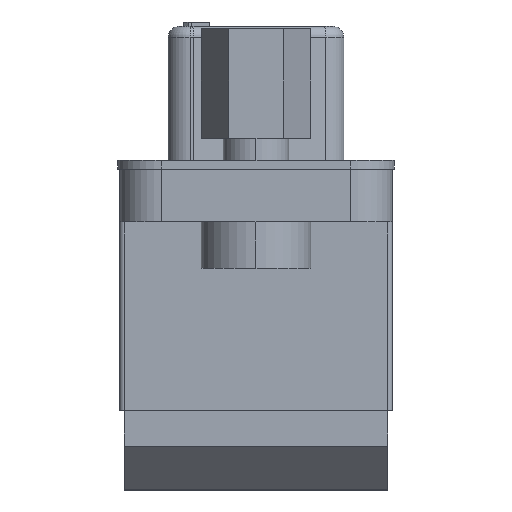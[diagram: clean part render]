
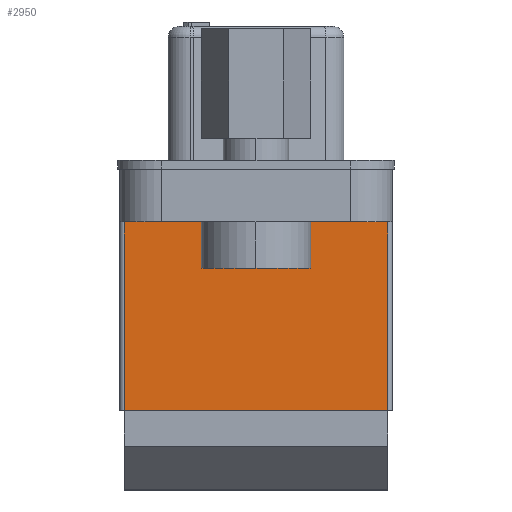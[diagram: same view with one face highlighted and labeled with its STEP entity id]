
A CAD part, left-side view. The second image highlights one B-rep face of the part: STEP entity #2950.
In plain terms, the highlighted planar face has unit normal (-1, 0, 0).
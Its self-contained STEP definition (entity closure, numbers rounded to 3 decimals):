
#2381 = CARTESIAN_POINT ( 'NONE',  ( -9.65, 6., -2.8 ) ) ;
#2528 = CARTESIAN_POINT ( 'NONE',  ( -9.65, -6., -2.8 ) ) ;
#2529 = DIRECTION ( 'NONE',  ( 0., -1., 0. ) ) ;
#2530 = VECTOR ( 'NONE', #2529, 1000. ) ;
#2531 = CARTESIAN_POINT ( 'NONE',  ( -9.65, -4.3, -2.8 ) ) ;
#2532 = LINE ( 'NONE', #2531, #2530 ) ;
#2950 = ADVANCED_FACE ( 'NONE', ( #5692 ), #5689, .F. ) ;
#2951 = ORIENTED_EDGE ( 'NONE', *, *, #4007, .F. ) ;
#2952 = ORIENTED_EDGE ( 'NONE', *, *, #2953, .F. ) ;
#2953 = EDGE_CURVE ( 'NONE', #2954, #3949, #5747, .T. ) ;
#2954 = VERTEX_POINT ( 'NONE', #5743 ) ;
#2955 = ORIENTED_EDGE ( 'NONE', *, *, #2956, .F. ) ;
#2956 = EDGE_CURVE ( 'NONE', #2970, #2954, #5742, .T. ) ;
#2957 = ORIENTED_EDGE ( 'NONE', *, *, #2969, .T. ) ;
#2969 = EDGE_CURVE ( 'NONE', #2970, #4008, #5721, .T. ) ;
#2970 = VERTEX_POINT ( 'NONE', #5779 ) ;
#2973 = EDGE_LOOP ( 'NONE', ( #2951, #2952, #2955, #2957 ) ) ;
#3949 = VERTEX_POINT ( 'NONE', #2381 ) ;
#4007 = EDGE_CURVE ( 'NONE', #3949, #4008, #2532, .T. ) ;
#4008 = VERTEX_POINT ( 'NONE', #2528 ) ;
#5689 = PLANE ( 'NONE',  #5691 ) ;
#5690 = CARTESIAN_POINT ( 'NONE',  ( -9.65, -6., -11.4 ) ) ;
#5691 = AXIS2_PLACEMENT_3D ( 'NONE', #5690, #5749, #5748 ) ;
#5692 = FACE_OUTER_BOUND ( 'NONE', #2973, .T. ) ;
#5719 = VECTOR ( 'NONE', #5780, 1000. ) ;
#5720 = CARTESIAN_POINT ( 'NONE',  ( -9.65, -6., -11.4 ) ) ;
#5721 = LINE ( 'NONE', #5720, #5719 ) ;
#5739 = DIRECTION ( 'NONE',  ( 0., 1., 0. ) ) ;
#5740 = VECTOR ( 'NONE', #5739, 1000. ) ;
#5741 = CARTESIAN_POINT ( 'NONE',  ( -9.65, -6., -11.4 ) ) ;
#5742 = LINE ( 'NONE', #5741, #5740 ) ;
#5743 = CARTESIAN_POINT ( 'NONE',  ( -9.65, 6., -11.4 ) ) ;
#5744 = DIRECTION ( 'NONE',  ( 0., 0., 1. ) ) ;
#5745 = VECTOR ( 'NONE', #5744, 1000. ) ;
#5746 = CARTESIAN_POINT ( 'NONE',  ( -9.65, 6., -11.4 ) ) ;
#5747 = LINE ( 'NONE', #5746, #5745 ) ;
#5748 = DIRECTION ( 'NONE',  ( 0., 0., -1. ) ) ;
#5749 = DIRECTION ( 'NONE',  ( 1., 0., 0. ) ) ;
#5779 = CARTESIAN_POINT ( 'NONE',  ( -9.65, -6., -11.4 ) ) ;
#5780 = DIRECTION ( 'NONE',  ( 0., 0., 1. ) ) ;
